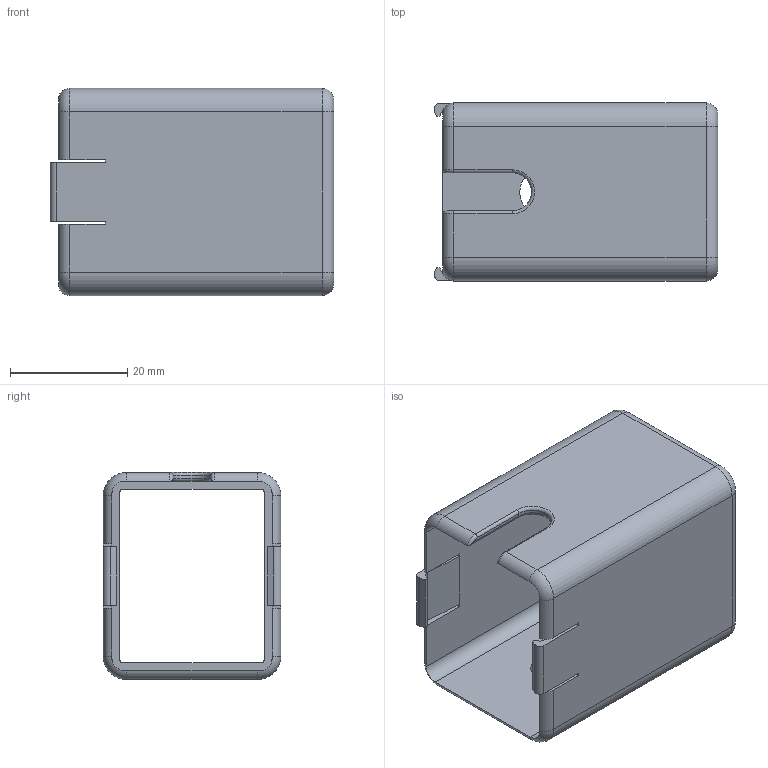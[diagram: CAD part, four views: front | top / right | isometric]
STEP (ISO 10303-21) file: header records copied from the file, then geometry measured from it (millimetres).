
FILE_DESCRIPTION (( 'STEP AP214' ), '1' );
FILE_NAME ('P001-B103_FrontCover_Rev2D-1.STEP', '2026-04-20T05:41:11', ( '' ), ( '' ), 'SwSTEP 2.0', 'SolidWorks 2024', '' );
FILE_SCHEMA (( 'AUTOMOTIVE_DESIGN' ));
Length unit declared in the file: millimetre
Products named in the file (1): P001-B103_FrontCover_Rev2D-1
Bounding box: 48.33 x 30.3 x 35.3 mm (x, y, z)
Volume: 8101.3 mm3; surface area: 11622.5 mm2
Topology: 1 solids, 1 shells, 81 faces, 210 edges, 131 vertices
Faces by surface type: plane 36, cylinder 33, torus 12
Full cylindrical faces by diameter (mm): 8 x1
Entity records: 2549 total; most frequent: CARTESIAN_POINT 524, DIRECTION 426, ORIENTED_EDGE 416, EDGE_CURVE 208, AXIS2_PLACEMENT_3D 150, VERTEX_POINT 130, VECTOR 126, LINE 126
